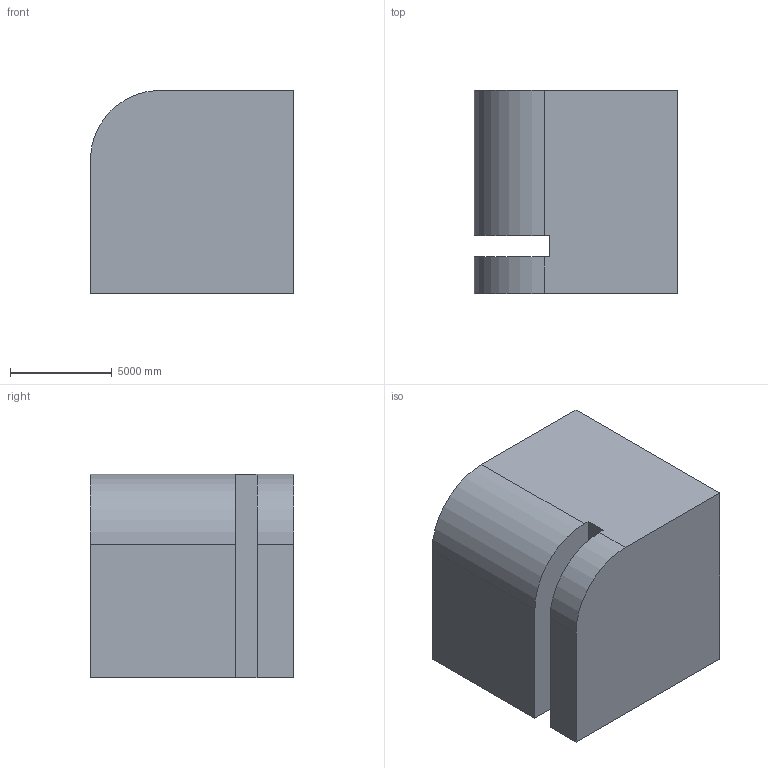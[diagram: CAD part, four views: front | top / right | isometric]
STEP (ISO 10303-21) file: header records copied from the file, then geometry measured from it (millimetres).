
FILE_DESCRIPTION (( 'STEP AP203' ), '1' );
FILE_NAME ('1164.STEP', '2022-08-18T13:00:45', ( 'user' ), ( '' ), 'SwSTEP 2.0', 'SolidWorks 2021', '' );
FILE_SCHEMA (( 'CONFIG_CONTROL_DESIGN' ));
Length unit declared in the file: centimetre
Products named in the file (1): 1164
Bounding box: 10000 x 10000 x 10000 mm (x, y, z)
Volume: 938025578050.1 mm3; surface area: 643077538.3 mm2
Topology: 1 solids, 1 shells, 12 faces, 30 edges, 20 vertices
Faces by surface type: plane 10, cylinder 2
Entity records: 435 total; most frequent: CARTESIAN_POINT 63, ORIENTED_EDGE 60, DIRECTION 60, EDGE_CURVE 30, VECTOR 26, LINE 26, VERTEX_POINT 20, AXIS2_PLACEMENT_3D 17
